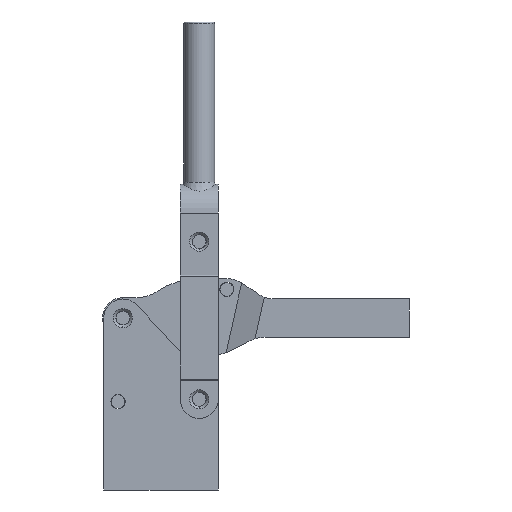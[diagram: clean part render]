
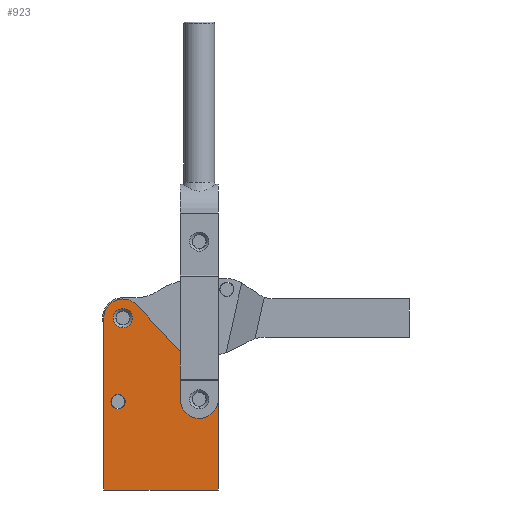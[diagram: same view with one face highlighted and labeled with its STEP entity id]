
A CAD part, front view. The second image highlights one B-rep face of the part: STEP entity #923.
In plain terms, the highlighted planar face has unit normal (0, -1, 0).
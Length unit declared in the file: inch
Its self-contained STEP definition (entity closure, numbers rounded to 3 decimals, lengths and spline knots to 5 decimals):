
#923 = ADVANCED_FACE( '', ( #1210, #1211, #1212, #1213 ), #1214, .F. );
#1210 = FACE_OUTER_BOUND( '', #1618, .T. );
#1211 = FACE_BOUND( '', #1619, .T. );
#1212 = FACE_BOUND( '', #1620, .T. );
#1213 = FACE_BOUND( '', #1621, .T. );
#1214 = PLANE( '', #1622 );
#1618 = EDGE_LOOP( '', ( #2537, #2538, #2539, #2540, #2541, #2542, #2543 ) );
#1619 = EDGE_LOOP( '', ( #2544, #2545, #2546 ) );
#1620 = EDGE_LOOP( '', ( #2547, #2548, #2549 ) );
#1621 = EDGE_LOOP( '', ( #2550, #2551, #2552 ) );
#1622 = AXIS2_PLACEMENT_3D( '', #2553, #2554, #2555 );
#2537 = ORIENTED_EDGE( '', *, *, #3634, .T. );
#2538 = ORIENTED_EDGE( '', *, *, #3632, .T. );
#2539 = ORIENTED_EDGE( '', *, *, #3630, .T. );
#2540 = ORIENTED_EDGE( '', *, *, #3628, .T. );
#2541 = ORIENTED_EDGE( '', *, *, #3607, .T. );
#2542 = ORIENTED_EDGE( '', *, *, #3627, .T. );
#2543 = ORIENTED_EDGE( '', *, *, #3625, .T. );
#2544 = ORIENTED_EDGE( '', *, *, #3604, .F. );
#2545 = ORIENTED_EDGE( '', *, *, #3603, .F. );
#2546 = ORIENTED_EDGE( '', *, *, #3635, .F. );
#2547 = ORIENTED_EDGE( '', *, *, #3595, .F. );
#2548 = ORIENTED_EDGE( '', *, *, #3594, .F. );
#2549 = ORIENTED_EDGE( '', *, *, #3636, .F. );
#2550 = ORIENTED_EDGE( '', *, *, #3589, .F. );
#2551 = ORIENTED_EDGE( '', *, *, #3588, .F. );
#2552 = ORIENTED_EDGE( '', *, *, #3637, .F. );
#2553 = CARTESIAN_POINT( '', ( 0., -0.5, 0. ) );
#2554 = DIRECTION( '', ( 0., 1., 0. ) );
#2555 = DIRECTION( '', ( 1., 0., 0. ) );
#3588 = EDGE_CURVE( '', #4214, #4216, #4217, .T. );
#3589 = EDGE_CURVE( '', #4216, #4208, #4218, .T. );
#3594 = EDGE_CURVE( '', #4226, #4228, #4229, .T. );
#3595 = EDGE_CURVE( '', #4228, #4220, #4230, .T. );
#3603 = EDGE_CURVE( '', #4243, #4245, #4246, .T. );
#3604 = EDGE_CURVE( '', #4245, #4247, #4248, .T. );
#3607 = EDGE_CURVE( '', #4253, #4250, #4254, .T. );
#3625 = EDGE_CURVE( '', #4282, #4280, #4283, .T. );
#3627 = EDGE_CURVE( '', #4250, #4282, #4285, .T. );
#3628 = EDGE_CURVE( '', #4286, #4253, #4287, .T. );
#3630 = EDGE_CURVE( '', #4289, #4286, #4290, .T. );
#3632 = EDGE_CURVE( '', #4292, #4289, #4293, .T. );
#3634 = EDGE_CURVE( '', #4280, #4292, #4295, .T. );
#3635 = EDGE_CURVE( '', #4247, #4243, #4296, .T. );
#3636 = EDGE_CURVE( '', #4220, #4226, #4297, .T. );
#3637 = EDGE_CURVE( '', #4208, #4214, #4298, .T. );
#4208 = VERTEX_POINT( '', #5141 );
#4214 = VERTEX_POINT( '', #5148 );
#4216 = VERTEX_POINT( '', #5151 );
#4217 = CIRCLE( '', #5152, 0.1875 );
#4218 = CIRCLE( '', #5153, 0.1875 );
#4220 = VERTEX_POINT( '', #5155 );
#4226 = VERTEX_POINT( '', #5162 );
#4228 = VERTEX_POINT( '', #5165 );
#4229 = CIRCLE( '', #5166, 0.1865 );
#4230 = CIRCLE( '', #5167, 0.1865 );
#4243 = VERTEX_POINT( '', #5182 );
#4245 = VERTEX_POINT( '', #5185 );
#4246 = CIRCLE( '', #5186, 0.2505 );
#4247 = VERTEX_POINT( '', #5187 );
#4248 = CIRCLE( '', #5188, 0.2505 );
#4250 = VERTEX_POINT( '', #5191 );
#4253 = VERTEX_POINT( '', #5195 );
#4254 = CIRCLE( '', #5196, 0.5 );
#4280 = VERTEX_POINT( '', #5229 );
#4282 = VERTEX_POINT( '', #5232 );
#4283 = LINE( '', #5233, #5234 );
#4285 = CIRCLE( '', #5237, 0.5 );
#4286 = VERTEX_POINT( '', #5238 );
#4287 = LINE( '', #5239, #5240 );
#4289 = VERTEX_POINT( '', #5243 );
#4290 = CIRCLE( '', #5244, 0.5 );
#4292 = VERTEX_POINT( '', #5247 );
#4293 = LINE( '', #5248, #5249 );
#4295 = LINE( '', #5252, #5253 );
#4296 = CIRCLE( '', #5254, 0.2505 );
#4297 = CIRCLE( '', #5255, 0.1865 );
#4298 = CIRCLE( '', #5256, 0.1875 );
#5141 = CARTESIAN_POINT( '', ( 0.375, -0.5, 2.5 ) );
#5148 = CARTESIAN_POINT( '', ( 0.375, -0.5, 2.125 ) );
#5151 = CARTESIAN_POINT( '', ( 0.5625, -0.5, 2.3125 ) );
#5152 = AXIS2_PLACEMENT_3D( '', #6270, #6271, #6272 );
#5153 = AXIS2_PLACEMENT_3D( '', #6273, #6274, #6275 );
#5155 = CARTESIAN_POINT( '', ( 2.5, -0.5, 2.5585 ) );
#5162 = CARTESIAN_POINT( '', ( 2.5, -0.5, 2.1855 ) );
#5165 = CARTESIAN_POINT( '', ( 2.6865, -0.5, 2.372 ) );
#5166 = AXIS2_PLACEMENT_3D( '', #6284, #6285, #6286 );
#5167 = AXIS2_PLACEMENT_3D( '', #6287, #6288, #6289 );
#5182 = CARTESIAN_POINT( '', ( 0.5, -0.5, 4.2495 ) );
#5185 = CARTESIAN_POINT( '', ( 0.7505, -0.5, 4.5 ) );
#5186 = AXIS2_PLACEMENT_3D( '', #6305, #6306, #6307 );
#5187 = CARTESIAN_POINT( '', ( 0.5, -0.5, 4.7505 ) );
#5188 = AXIS2_PLACEMENT_3D( '', #6308, #6309, #6310 );
#5191 = CARTESIAN_POINT( '', ( 0.5, -0.5, 5. ) );
#5195 = CARTESIAN_POINT( '', ( 0.86434, -0.5, 4.84243 ) );
#5196 = AXIS2_PLACEMENT_3D( '', #6313, #6314, #6315 );
#5229 = CARTESIAN_POINT( '', ( 0., -0.5, 0. ) );
#5232 = CARTESIAN_POINT( '', ( 0., -0.5, 4.5 ) );
#5233 = CARTESIAN_POINT( '', ( 0., -0.5, 4.5 ) );
#5234 = VECTOR( '', #6351, 1. );
#5237 = AXIS2_PLACEMENT_3D( '', #6353, #6354, #6355 );
#5238 = CARTESIAN_POINT( '', ( 2.86434, -0.5, 2.71443 ) );
#5239 = CARTESIAN_POINT( '', ( 2.86434, -0.5, 2.71443 ) );
#5240 = VECTOR( '', #6356, 1. );
#5243 = CARTESIAN_POINT( '', ( 3., -0.5, 2.372 ) );
#5244 = AXIS2_PLACEMENT_3D( '', #6358, #6359, #6360 );
#5247 = CARTESIAN_POINT( '', ( 3., -0.5, 0. ) );
#5248 = CARTESIAN_POINT( '', ( 3., -0.5, 0. ) );
#5249 = VECTOR( '', #6362, 1. );
#5252 = CARTESIAN_POINT( '', ( 0., -0.5, 0. ) );
#5253 = VECTOR( '', #6364, 1. );
#5254 = AXIS2_PLACEMENT_3D( '', #6365, #6366, #6367 );
#5255 = AXIS2_PLACEMENT_3D( '', #6368, #6369, #6370 );
#5256 = AXIS2_PLACEMENT_3D( '', #6371, #6372, #6373 );
#6270 = CARTESIAN_POINT( '', ( 0.375, -0.5, 2.3125 ) );
#6271 = DIRECTION( '', ( 0., -1., 0. ) );
#6272 = DIRECTION( '', ( 1., 0., 0. ) );
#6273 = CARTESIAN_POINT( '', ( 0.375, -0.5, 2.3125 ) );
#6274 = DIRECTION( '', ( 0., -1., 0. ) );
#6275 = DIRECTION( '', ( 1., 0., 0. ) );
#6284 = CARTESIAN_POINT( '', ( 2.5, -0.5, 2.372 ) );
#6285 = DIRECTION( '', ( 0., -1., 0. ) );
#6286 = DIRECTION( '', ( 1., 0., 0. ) );
#6287 = CARTESIAN_POINT( '', ( 2.5, -0.5, 2.372 ) );
#6288 = DIRECTION( '', ( 0., -1., 0. ) );
#6289 = DIRECTION( '', ( 1., 0., 0. ) );
#6305 = CARTESIAN_POINT( '', ( 0.5, -0.5, 4.5 ) );
#6306 = DIRECTION( '', ( 0., -1., 0. ) );
#6307 = DIRECTION( '', ( 1., 0., 0. ) );
#6308 = CARTESIAN_POINT( '', ( 0.5, -0.5, 4.5 ) );
#6309 = DIRECTION( '', ( 0., -1., 0. ) );
#6310 = DIRECTION( '', ( 1., 0., 0. ) );
#6313 = CARTESIAN_POINT( '', ( 0.5, -0.5, 4.5 ) );
#6314 = DIRECTION( '', ( 0., -1., 0. ) );
#6315 = DIRECTION( '', ( 0.729, 0., 0.685 ) );
#6351 = DIRECTION( '', ( 0., 0., -1. ) );
#6353 = CARTESIAN_POINT( '', ( 0.5, -0.5, 4.5 ) );
#6354 = DIRECTION( '', ( 0., -1., 0. ) );
#6355 = DIRECTION( '', ( 0.729, 0., 0.685 ) );
#6356 = DIRECTION( '', ( -0.685, 0., 0.729 ) );
#6358 = CARTESIAN_POINT( '', ( 2.5, -0.5, 2.372 ) );
#6359 = DIRECTION( '', ( 0., -1., 0. ) );
#6360 = DIRECTION( '', ( 1., 0., 0. ) );
#6362 = DIRECTION( '', ( 0., 0., 1. ) );
#6364 = DIRECTION( '', ( 1., 0., 0. ) );
#6365 = CARTESIAN_POINT( '', ( 0.5, -0.5, 4.5 ) );
#6366 = DIRECTION( '', ( 0., -1., 0. ) );
#6367 = DIRECTION( '', ( 1., 0., 0. ) );
#6368 = CARTESIAN_POINT( '', ( 2.5, -0.5, 2.372 ) );
#6369 = DIRECTION( '', ( 0., -1., 0. ) );
#6370 = DIRECTION( '', ( 1., 0., 0. ) );
#6371 = CARTESIAN_POINT( '', ( 0.375, -0.5, 2.3125 ) );
#6372 = DIRECTION( '', ( 0., -1., 0. ) );
#6373 = DIRECTION( '', ( 1., 0., 0. ) );
